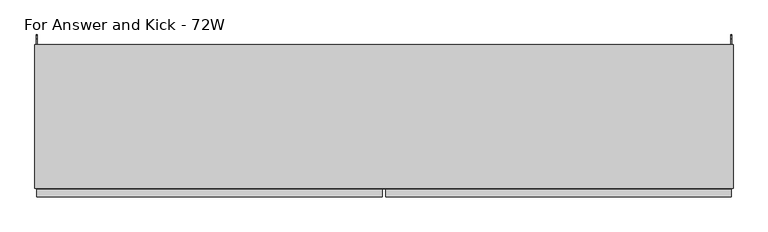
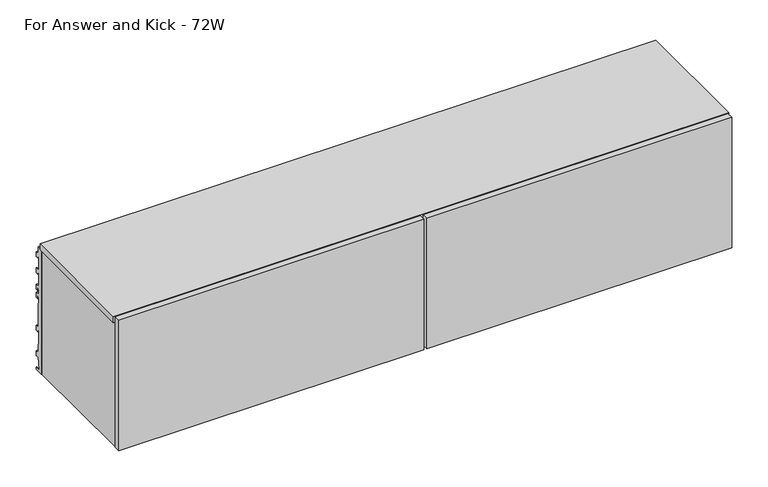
"""IFC4 building model written with IfcOpenShell, lengths in millimetres: furniture geometry, Steelcase - Universal Storage - Over the Case Bin - Flat Front : For Answer and Kick - 72W."""

from ifc_helpers import new_model, si_unit, frame, origin, place, context, project, spatial, polyline, outline, extrude, source, transform, mapped, element, save


def for_answer_and_kick_72w_4c1d299a(model_context):
    return source(origin(), model_context, "Body", "SweptSolid", [
        extrude(outline(polyline([(0.0, 1657.096), (15.428165, 1657.096), (15.428165, 1635.9725192), (24.6737648, 1635.9725192), (24.6737648, 1620.2499324), (17.7141651, 1620.2499324), (17.7141651, 1627.4034202), (15.428165, 1627.4034202), (13.3707653, 1623.8398995), (13.3707653, 1584.7332049), (24.4959651, 1584.7332049), (24.4959651, 1569.0106181), (17.7141651, 1569.0106181), (17.7141651, 1576.1734076), (15.428165, 1576.1734076), (13.3707653, 1572.6099624), (13.3707653, 1533.4938907), (24.6737648, 1533.4938907), (24.6737648, 1517.7713038), (17.5768, 1517.7713038), (17.5768, 1524.9340934), (15.4248855, 1524.9340934), (13.3349998, 1521.3219111), (13.3349998, 1508.4166423), (24.6737648, 1508.4166423), (24.6737648, 1492.6940555), (17.5768, 1492.6940555), (17.5768, 1499.856845), (15.4205129, 1499.856845), (13.3933344, 1496.3530466), (13.3933344, 1483.6530466), (15.428165, 1479.2893385), (15.428165, 1403.8551467), (24.6737648, 1403.8551467), (24.6737648, 1388.1325599), (17.7141651, 1388.1325599), (17.7141651, 1395.2982562), (15.428165, 1395.2982562), (13.3306079, 1391.6651808), (13.3306079, 1353.5651808), (15.428165, 1349.9321054), (15.428165, 1325.1000701), (24.6737648, 1325.1000701), (24.6737648, 1309.3774833), (17.7141651, 1309.3774833), (17.7141651, 1316.5328605), (15.428165, 1316.5328605), (15.428165, 1303.5355433), (13.2046809, 1299.684356), (13.2046809, 1282.9679719), (11.2879653, 1282.9679719), (11.2879653, 1271.9303504), (26.4009645, 1271.9303504), (26.4009645, 1265.428), (0.0, 1265.428), (0.0, 1657.096)])), frame((1823.2882, 0.0, 0.0), z_axis=(1.0, 0.0, 0.0), x_axis=(0.0, 1.0, 0.0)), (0.0, 0.0, 1.0), 1.905),
        extrude(outline(polyline([(0.0, 1657.096), (15.428165, 1657.096), (15.428165, 1635.9725192), (24.6737648, 1635.9725192), (24.6737648, 1620.2499324), (17.7141651, 1620.2499324), (17.7141651, 1627.4034202), (15.428165, 1627.4034202), (13.3707653, 1623.8398995), (13.3707653, 1584.7332049), (24.4959651, 1584.7332049), (24.4959651, 1569.0106181), (17.7141651, 1569.0106181), (17.7141651, 1576.1734076), (15.428165, 1576.1734076), (13.3707653, 1572.6099624), (13.3707653, 1533.4938907), (24.6737648, 1533.4938907), (24.6737648, 1517.7713038), (17.5768, 1517.7713038), (17.5768, 1524.9340934), (15.4248855, 1524.9340934), (13.3349998, 1521.3219111), (13.3349998, 1508.4166423), (24.6737648, 1508.4166423), (24.6737648, 1492.6940555), (17.5768, 1492.6940555), (17.5768, 1499.856845), (15.4205129, 1499.856845), (13.3933344, 1496.3530466), (13.3933344, 1483.6530466), (15.428165, 1479.2893385), (15.428165, 1403.8551467), (24.6737648, 1403.8551467), (24.6737648, 1388.1325599), (17.7141651, 1388.1325599), (17.7141651, 1395.2982562), (15.428165, 1395.2982562), (13.3306079, 1391.6651808), (13.3306079, 1353.5651808), (15.428165, 1349.9321054), (15.428165, 1325.1000701), (24.6737648, 1325.1000701), (24.6737648, 1309.3774833), (17.7141651, 1309.3774833), (17.7141651, 1316.5328605), (15.428165, 1316.5328605), (15.428165, 1303.5355433), (13.2046809, 1299.684356), (13.2046809, 1282.9679719), (11.2879653, 1282.9679719), (11.2879653, 1271.9303504), (26.4009645, 1271.9303504), (26.4009645, 1265.428), (0.0, 1265.428), (0.0, 1657.096)])), frame((3.6068, 0.0, 0.0), z_axis=(1.0, 0.0, 0.0), x_axis=(0.0, 1.0, 0.0)), (0.0, 0.0, 1.0), 1.905),
        extrude(outline(polyline([(918.972, -379.476), (1824.3703, -379.476), (1824.3703, -398.526), (918.972, -398.526), (918.972, -379.476)])), frame((0.0, 0.0, 1266.8226746), z_axis=(0.0, 0.0, 1.0), x_axis=(1.0, 0.0, 0.0)), (0.0, 0.0, 1.0), 409.5773254),
        extrude(outline(polyline([(4.4448587, -379.476), (909.828, -379.476), (909.828, -398.526), (4.4448587, -398.526), (4.4448587, -379.476)])), frame((0.0, 0.0, 1266.8226746), z_axis=(0.0, 0.0, 1.0), x_axis=(1.0, 0.0, 0.0)), (0.0, 0.0, 1.0), 409.5773254),
        extrude(outline(polyline([(1828.8, -377.213238), (0.0, -377.213238), (0.0, 0.0), (1828.8, 0.0), (1828.8, -377.213238)])), frame((0.0, 0.0, 1657.35), z_axis=(0.0, 0.0, 1.0), x_axis=(1.0, 0.0, 0.0)), (0.0, 0.0, 1.0), 19.05),
        extrude(outline(polyline([(15.875, -377.213238), (5.5118, -377.213238), (5.5118, 0.0), (15.875, 0.0), (15.875, -377.213238)])), frame((0.0, 0.0, 1265.428), z_axis=(0.0, 0.0, 1.0), x_axis=(1.0, 0.0, 0.0)), (0.0, 0.0, 1.0), 391.6679457),
        extrude(outline(polyline([(1827.6568665, -377.213238), (1812.925, -377.213238), (1812.925, 0.0), (1827.6568665, 0.0), (1827.6568665, -377.213238)])), frame((0.0, 0.0, 1265.428), z_axis=(0.0, 0.0, 1.0), x_axis=(1.0, 0.0, 0.0)), (0.0, 0.0, 1.0), 391.6679457),
        extrude(outline(polyline([(-35.4584098, 1372.819257), (-27.0763996, 1372.819257), (-27.0763996, 1360.1191601), (-33.4264117, 1360.1191601), (-33.4264117, 1323.1622589), (-27.0763996, 1323.1622589), (-27.0763996, 1265.428), (-35.4584098, 1265.428), (-35.4584098, 1293.054213), (-46.1263996, 1293.054213), (-46.1263996, 1268.1875622), (-59.9694137, 1268.1875622), (-59.9694137, 1294.8575912), (-332.8542818, 1294.8575912), (-332.8542818, 1268.1875622), (-377.3042823, 1268.1875622), (-377.3042823, 1310.7072052), (-35.4584098, 1310.7072052), (-35.4584098, 1372.819257)])), frame((15.875, 0.0, 0.0), z_axis=(1.0, 0.0, 0.0), x_axis=(0.0, 1.0, 0.0)), (0.0, 0.0, 1.0), 1797.05),
    ])


if __name__ == "__main__":
    model = new_model("IFC4")
    model_context = context("Model", 3, world=origin())
    ifc_project = project(units=[si_unit("LENGTHUNIT", "METRE", prefix="MILLI")], contexts=[model_context])
    site = spatial("IfcSite", under=ifc_project)
    building = spatial("IfcBuilding", under=site)
    placement = place(None, origin())
    for_answer_and_kick_72w_shape = for_answer_and_kick_72w_4c1d299a(model_context)
    element("IfcFurniture", 1, ObjectType="Steelcase - Universal Storage - Over the Case Bin - Flat Front : For Answer and Kick - 72W", at=placement, inside=building, context=model_context, shape_type="MappedRepresentation", body=[
        mapped(for_answer_and_kick_72w_shape, transform((0.0, 0.0, 0.0), x_axis=(1.0, 0.0, 0.0), y_axis=(0.0, 1.0, 0.0), z_axis=(0.0, 0.0, 1.0))),
    ])
    save(model, "model.ifc")
